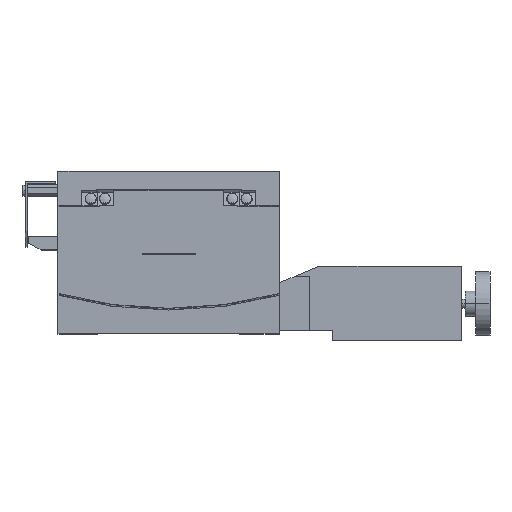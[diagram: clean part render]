
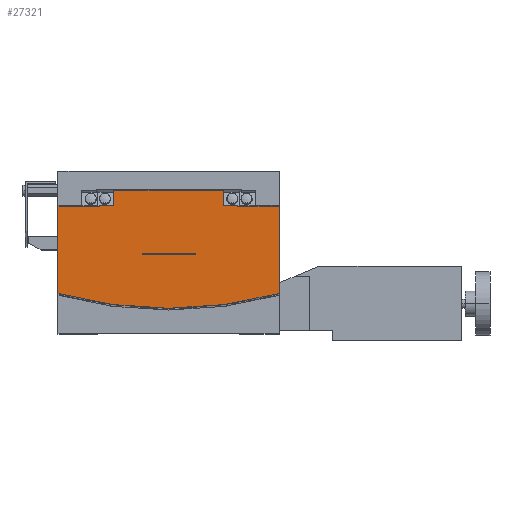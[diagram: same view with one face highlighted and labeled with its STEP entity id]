
A CAD part, top view. The second image highlights one B-rep face of the part: STEP entity #27321.
In plain terms, the highlighted planar face has unit normal (0, 0, 1).
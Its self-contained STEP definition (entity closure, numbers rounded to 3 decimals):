
#16589 = DIRECTION ( 'NONE',  ( -1., 0., 0. ) ) ;
#16600 = VECTOR ( 'NONE', #16589, 1000. ) ;
#16601 = CARTESIAN_POINT ( 'NONE',  ( -62.5, 45., 62.5 ) ) ;
#16602 = LINE ( 'NONE', #16601, #16600 ) ;
#17747 = CARTESIAN_POINT ( 'NONE',  ( 15., 45., 62.5 ) ) ;
#17748 = CARTESIAN_POINT ( 'NONE',  ( -15., 45., 62.5 ) ) ;
#19087 = CARTESIAN_POINT ( 'NONE',  ( -62.5, 22.871, 62.5 ) ) ;
#19088 = DIRECTION ( 'NONE',  ( -1., 0., 0. ) ) ;
#19090 = DIRECTION ( 'NONE',  ( 0., 0., 1. ) ) ;
#19091 = CARTESIAN_POINT ( 'NONE',  ( 0., 252., 62.5 ) ) ;
#19092 = AXIS2_PLACEMENT_3D ( 'NONE', #19091, #19090, #19088 ) ;
#19093 = CIRCLE ( 'NONE', #19092, 237.5 ) ;
#19094 = CARTESIAN_POINT ( 'NONE',  ( 62.5, 22.871, 62.5 ) ) ;
#19551 = CARTESIAN_POINT ( 'NONE',  ( 39., 72.044, 62.5 ) ) ;
#19608 = CARTESIAN_POINT ( 'NONE',  ( 62.5, 72.044, 62.5 ) ) ;
#19609 = DIRECTION ( 'NONE',  ( 1., 0., 0. ) ) ;
#19610 = VECTOR ( 'NONE', #19609, 1000. ) ;
#19611 = CARTESIAN_POINT ( 'NONE',  ( 0., 72.044, 62.5 ) ) ;
#19612 = LINE ( 'NONE', #19611, #19610 ) ;
#19645 = VECTOR ( 'NONE', #19709, 1000. ) ;
#19646 = CARTESIAN_POINT ( 'NONE',  ( -39., 81.068, 62.5 ) ) ;
#19647 = LINE ( 'NONE', #19646, #19645 ) ;
#19648 = CARTESIAN_POINT ( 'NONE',  ( -39., 72.574, 62.5 ) ) ;
#19649 = DIRECTION ( 'NONE',  ( 1., 0., 0. ) ) ;
#19650 = VECTOR ( 'NONE', #19649, 1000. ) ;
#19651 = CARTESIAN_POINT ( 'NONE',  ( 0., 72.574, 62.5 ) ) ;
#19652 = LINE ( 'NONE', #19651, #19650 ) ;
#19653 = CARTESIAN_POINT ( 'NONE',  ( -31., 72.574, 62.5 ) ) ;
#19654 = DIRECTION ( 'NONE',  ( 0., 1., 0. ) ) ;
#19655 = VECTOR ( 'NONE', #19654, 1000. ) ;
#19656 = CARTESIAN_POINT ( 'NONE',  ( -31., 81.068, 62.5 ) ) ;
#19657 = LINE ( 'NONE', #19656, #19655 ) ;
#19685 = CARTESIAN_POINT ( 'NONE',  ( -31., 81.068, 62.5 ) ) ;
#19686 = DIRECTION ( 'NONE',  ( -1., 0., 0. ) ) ;
#19687 = VECTOR ( 'NONE', #19686, 1000. ) ;
#19688 = CARTESIAN_POINT ( 'NONE',  ( 62.5, 81.068, 62.5 ) ) ;
#19689 = LINE ( 'NONE', #19688, #19687 ) ;
#19690 = CARTESIAN_POINT ( 'NONE',  ( 31., 81.068, 62.5 ) ) ;
#19691 = DIRECTION ( 'NONE',  ( 0., -1., 0. ) ) ;
#19692 = VECTOR ( 'NONE', #19691, 1000. ) ;
#19693 = CARTESIAN_POINT ( 'NONE',  ( 31., 81.068, 62.5 ) ) ;
#19694 = LINE ( 'NONE', #19693, #19692 ) ;
#19695 = CARTESIAN_POINT ( 'NONE',  ( 31., 72.574, 62.5 ) ) ;
#19696 = DIRECTION ( 'NONE',  ( 1., 0., 0. ) ) ;
#19697 = VECTOR ( 'NONE', #19696, 1000. ) ;
#19698 = CARTESIAN_POINT ( 'NONE',  ( 0., 72.574, 62.5 ) ) ;
#19699 = LINE ( 'NONE', #19698, #19697 ) ;
#19700 = DIRECTION ( 'NONE',  ( 0., -1., 0. ) ) ;
#19701 = VECTOR ( 'NONE', #19700, 1000. ) ;
#19702 = CARTESIAN_POINT ( 'NONE',  ( 62.5, 81.068, 62.5 ) ) ;
#19703 = LINE ( 'NONE', #19702, #19701 ) ;
#19704 = DIRECTION ( 'NONE',  ( 1., 0., 0. ) ) ;
#19705 = VECTOR ( 'NONE', #19704, 1000. ) ;
#19706 = CARTESIAN_POINT ( 'NONE',  ( 0., 72.044, 62.5 ) ) ;
#19707 = LINE ( 'NONE', #19706, #19705 ) ;
#19708 = CARTESIAN_POINT ( 'NONE',  ( -39., 72.044, 62.5 ) ) ;
#19709 = DIRECTION ( 'NONE',  ( 0., 1., 0. ) ) ;
#19719 = CARTESIAN_POINT ( 'NONE',  ( -62.5, 72.044, 62.5 ) ) ;
#19720 = DIRECTION ( 'NONE',  ( 0., -1., 0. ) ) ;
#19721 = VECTOR ( 'NONE', #19720, 1000. ) ;
#19722 = CARTESIAN_POINT ( 'NONE',  ( -62.5, 81.068, 62.5 ) ) ;
#19723 = LINE ( 'NONE', #19722, #19721 ) ;
#19724 = DIRECTION ( 'NONE',  ( -1., 0., 0. ) ) ;
#19725 = DIRECTION ( 'NONE',  ( 0., 0., -1. ) ) ;
#19726 = CARTESIAN_POINT ( 'NONE',  ( 62.5, 81.068, 62.5 ) ) ;
#19727 = AXIS2_PLACEMENT_3D ( 'NONE', #19726, #19725, #19724 ) ;
#19728 = PLANE ( 'NONE',  #19727 ) ;
#19729 = FACE_BOUND ( 'NONE', #27296, .T. ) ;
#19730 = FACE_OUTER_BOUND ( 'NONE', #27322, .T. ) ;
#19731 = DIRECTION ( 'NONE',  ( 0., -1., 0. ) ) ;
#19732 = VECTOR ( 'NONE', #19731, 1000. ) ;
#19733 = CARTESIAN_POINT ( 'NONE',  ( 39., 81.068, 62.5 ) ) ;
#19734 = LINE ( 'NONE', #19733, #19732 ) ;
#19735 = CARTESIAN_POINT ( 'NONE',  ( 39., 72.574, 62.5 ) ) ;
#19786 = DIRECTION ( 'NONE',  ( 0., -1., 0. ) ) ;
#19787 = VECTOR ( 'NONE', #19786, 1000. ) ;
#19788 = CARTESIAN_POINT ( 'NONE',  ( 15., 45.5, 62.5 ) ) ;
#19789 = LINE ( 'NONE', #19788, #19787 ) ;
#19790 = CARTESIAN_POINT ( 'NONE',  ( 15., 45.5, 62.5 ) ) ;
#19791 = DIRECTION ( 'NONE',  ( 1., 0., 0. ) ) ;
#19792 = VECTOR ( 'NONE', #19791, 1000. ) ;
#19793 = CARTESIAN_POINT ( 'NONE',  ( 62.5, 45.5, 62.5 ) ) ;
#19794 = LINE ( 'NONE', #19793, #19792 ) ;
#19795 = CARTESIAN_POINT ( 'NONE',  ( -15., 45.5, 62.5 ) ) ;
#19796 = DIRECTION ( 'NONE',  ( 0., -1., 0. ) ) ;
#19797 = VECTOR ( 'NONE', #19796, 1000. ) ;
#19798 = CARTESIAN_POINT ( 'NONE',  ( -15., 45.5, 62.5 ) ) ;
#19799 = LINE ( 'NONE', #19798, #19797 ) ;
#25783 = EDGE_CURVE ( 'NONE', #26488, #26487, #16602, .T. ) ;
#26487 = VERTEX_POINT ( 'NONE', #17748 ) ;
#26488 = VERTEX_POINT ( 'NONE', #17747 ) ;
#27013 = VERTEX_POINT ( 'NONE', #19094 ) ;
#27015 = EDGE_CURVE ( 'NONE', #27016, #27013, #19093, .T. ) ;
#27016 = VERTEX_POINT ( 'NONE', #19087 ) ;
#27234 = VERTEX_POINT ( 'NONE', #19551 ) ;
#27236 = EDGE_CURVE ( 'NONE', #27234, #27237, #19612, .T. ) ;
#27237 = VERTEX_POINT ( 'NONE', #19608 ) ;
#27286 = EDGE_CURVE ( 'NONE', #27287, #27311, #19657, .T. ) ;
#27287 = VERTEX_POINT ( 'NONE', #19653 ) ;
#27288 = ORIENTED_EDGE ( 'NONE', *, *, #27289, .F. ) ;
#27289 = EDGE_CURVE ( 'NONE', #27290, #27287, #19652, .T. ) ;
#27290 = VERTEX_POINT ( 'NONE', #19648 ) ;
#27291 = ORIENTED_EDGE ( 'NONE', *, *, #27292, .F. ) ;
#27292 = EDGE_CURVE ( 'NONE', #27293, #27290, #19647, .T. ) ;
#27293 = VERTEX_POINT ( 'NONE', #19708 ) ;
#27294 = ORIENTED_EDGE ( 'NONE', *, *, #27295, .F. ) ;
#27295 = EDGE_CURVE ( 'NONE', #27325, #27293, #19707, .T. ) ;
#27296 = EDGE_LOOP ( 'NONE', ( #27297, #27359, #27362, #27365 ) ) ;
#27297 = ORIENTED_EDGE ( 'NONE', *, *, #25783, .T. ) ;
#27298 = ORIENTED_EDGE ( 'NONE', *, *, #27015, .T. ) ;
#27299 = ORIENTED_EDGE ( 'NONE', *, *, #27300, .F. ) ;
#27300 = EDGE_CURVE ( 'NONE', #27237, #27013, #19703, .T. ) ;
#27301 = ORIENTED_EDGE ( 'NONE', *, *, #27236, .F. ) ;
#27302 = ORIENTED_EDGE ( 'NONE', *, *, #27320, .F. ) ;
#27303 = ORIENTED_EDGE ( 'NONE', *, *, #27304, .F. ) ;
#27304 = EDGE_CURVE ( 'NONE', #27305, #27318, #19699, .T. ) ;
#27305 = VERTEX_POINT ( 'NONE', #19695 ) ;
#27306 = ORIENTED_EDGE ( 'NONE', *, *, #27307, .F. ) ;
#27307 = EDGE_CURVE ( 'NONE', #27308, #27305, #19694, .T. ) ;
#27308 = VERTEX_POINT ( 'NONE', #19690 ) ;
#27309 = ORIENTED_EDGE ( 'NONE', *, *, #27310, .T. ) ;
#27310 = EDGE_CURVE ( 'NONE', #27308, #27311, #19689, .T. ) ;
#27311 = VERTEX_POINT ( 'NONE', #19685 ) ;
#27318 = VERTEX_POINT ( 'NONE', #19735 ) ;
#27320 = EDGE_CURVE ( 'NONE', #27318, #27234, #19734, .T. ) ;
#27321 = ADVANCED_FACE ( 'NONE', ( #19730, #19729 ), #19728, .F. ) ;
#27322 = EDGE_LOOP ( 'NONE', ( #27323, #27298, #27299, #27301, #27302, #27303, #27306, #27309, #27374, #27288, #27291, #27294 ) ) ;
#27323 = ORIENTED_EDGE ( 'NONE', *, *, #27324, .T. ) ;
#27324 = EDGE_CURVE ( 'NONE', #27325, #27016, #19723, .T. ) ;
#27325 = VERTEX_POINT ( 'NONE', #19719 ) ;
#27359 = ORIENTED_EDGE ( 'NONE', *, *, #27360, .F. ) ;
#27360 = EDGE_CURVE ( 'NONE', #27361, #26487, #19799, .T. ) ;
#27361 = VERTEX_POINT ( 'NONE', #19795 ) ;
#27362 = ORIENTED_EDGE ( 'NONE', *, *, #27363, .T. ) ;
#27363 = EDGE_CURVE ( 'NONE', #27361, #27364, #19794, .T. ) ;
#27364 = VERTEX_POINT ( 'NONE', #19790 ) ;
#27365 = ORIENTED_EDGE ( 'NONE', *, *, #27366, .T. ) ;
#27366 = EDGE_CURVE ( 'NONE', #27364, #26488, #19789, .T. ) ;
#27374 = ORIENTED_EDGE ( 'NONE', *, *, #27286, .F. ) ;
